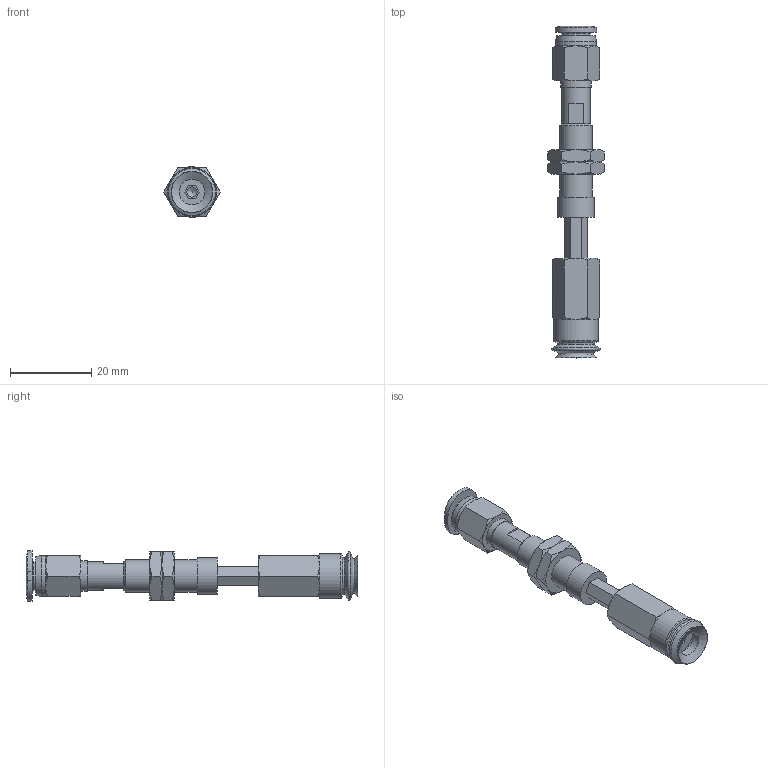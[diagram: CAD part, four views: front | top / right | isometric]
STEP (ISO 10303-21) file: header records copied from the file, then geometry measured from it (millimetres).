
FILE_DESCRIPTION(('STEP AP203'),'1');
FILE_NAME('-O.stp','2025-08-27T06:47:05',(' '),(' '),'Spatial InterOp 3D',' ',' ');
FILE_SCHEMA(('CONFIG_CONTROL_DESIGN'));
Length unit declared in the file: millimetre
Products named in the file (8): BNABPJTH-10-10-※-O; ADAPTER; NAPCTH-10-10-MBODY; Adapter-10-NAPJ; NAPJH-10-10-NUT; NAPJTH-10-10-FBODY; BPJG-10-※; PC-C_06-M5
Assembly tree (8 placements, depth 2):
  BNABPJTH-10-10-※-O
    ADAPTER
    NAPCTH-10-10-MBODY
    Adapter-10-NAPJ
    NAPJH-10-10-NUT  x2
    NAPJTH-10-10-FBODY
    BPJG-10-※
    PC-C_06-M5
Bounding box: 13.86 x 81.48 x 12.4 mm (x, y, z)
Volume: 4035.5 mm3; surface area: 5588.1 mm2
Topology: 7 solids, 10 shells, 183 faces, 387 edges, 235 vertices
Faces by surface type: plane 77, cone 67, cylinder 23, torus 9, bspline 4, revolution 3
Full cylindrical faces by diameter (mm): 2.5 x1, 4 x2, 4.134 x2, 4.6 x1, 5 x2, 6.266 x1, 7 x2, 7.188 x2, 7.4 x1, 7.8 x1, 8 x2, 8.2 x1, 9 x1, 10 x1, 11 x1
Entity records: 4956 total; most frequent: CARTESIAN_POINT 1485, DIRECTION 635, ORIENTED_EDGE 554, EDGE_CURVE 279, AXIS2_PLACEMENT_3D 270, EDGE_LOOP 230, VERTEX_POINT 196, FACE_OUTER_BOUND 129
